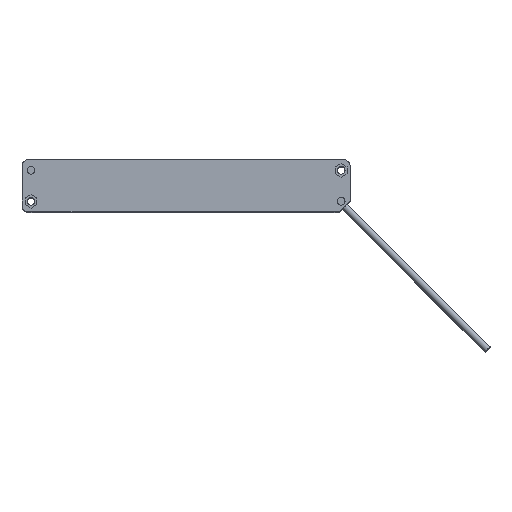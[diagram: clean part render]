
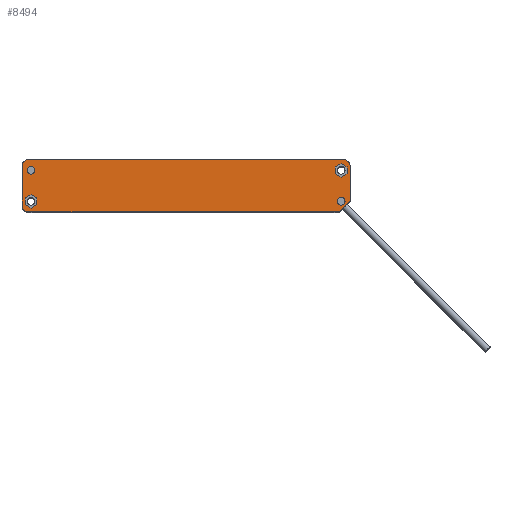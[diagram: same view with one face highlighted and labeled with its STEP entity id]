
A CAD part, top view. The second image highlights one B-rep face of the part: STEP entity #8494.
In plain terms, the highlighted planar face has unit normal (0, 0, 1).
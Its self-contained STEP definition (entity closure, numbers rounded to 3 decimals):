
#99=FACE_BOUND('',#1401,.T.);
#100=FACE_BOUND('',#1402,.T.);
#101=FACE_BOUND('',#1403,.T.);
#102=FACE_BOUND('',#1404,.T.);
#480=CIRCLE('',#9217,4.);
#481=CIRCLE('',#9218,4.);
#482=CIRCLE('',#9219,4.);
#483=CIRCLE('',#9220,0.5);
#484=CIRCLE('',#9221,0.5);
#485=CIRCLE('',#9222,2.25);
#486=CIRCLE('',#9223,2.25);
#902=FACE_OUTER_BOUND('',#1400,.T.);
#1400=EDGE_LOOP('',(#7075,#7076,#7077,#7078,#7079,#7080,#7081,#7082,#7083,
#7084));
#1401=EDGE_LOOP('',(#7085,#7086,#7087,#7088,#7089,#7090));
#1402=EDGE_LOOP('',(#7091,#7092,#7093,#7094,#7095,#7096));
#1403=EDGE_LOOP('',(#7097));
#1404=EDGE_LOOP('',(#7098));
#2228=LINE('',#13957,#3084);
#2229=LINE('',#13961,#3085);
#2230=LINE('',#13965,#3086);
#2231=LINE('',#13969,#3087);
#2232=LINE('',#13973,#3088);
#2233=LINE('',#13977,#3089);
#2234=LINE('',#13979,#3090);
#2235=LINE('',#13981,#3091);
#2236=LINE('',#13983,#3092);
#2237=LINE('',#13985,#3093);
#2238=LINE('',#13986,#3094);
#2239=LINE('',#13989,#3095);
#2240=LINE('',#13991,#3096);
#2241=LINE('',#13993,#3097);
#2242=LINE('',#13995,#3098);
#2243=LINE('',#13997,#3099);
#2244=LINE('',#13998,#3100);
#3084=VECTOR('',#11371,19.879);
#3085=VECTOR('',#11374,183.);
#3086=VECTOR('',#11377,22.5);
#3087=VECTOR('',#11380,180.379);
#3088=VECTOR('',#11383,8.657);
#3089=VECTOR('',#11386,3.969);
#3090=VECTOR('',#11387,3.969);
#3091=VECTOR('',#11388,3.969);
#3092=VECTOR('',#11389,3.969);
#3093=VECTOR('',#11390,3.969);
#3094=VECTOR('',#11391,3.969);
#3095=VECTOR('',#11392,3.969);
#3096=VECTOR('',#11393,3.969);
#3097=VECTOR('',#11394,3.969);
#3098=VECTOR('',#11395,3.969);
#3099=VECTOR('',#11396,3.969);
#3100=VECTOR('',#11397,3.969);
#3841=VERTEX_POINT('',#13955);
#3842=VERTEX_POINT('',#13956);
#3843=VERTEX_POINT('',#13958);
#3844=VERTEX_POINT('',#13960);
#3845=VERTEX_POINT('',#13962);
#3846=VERTEX_POINT('',#13964);
#3847=VERTEX_POINT('',#13966);
#3848=VERTEX_POINT('',#13968);
#3849=VERTEX_POINT('',#13970);
#3850=VERTEX_POINT('',#13972);
#3851=VERTEX_POINT('',#13975);
#3852=VERTEX_POINT('',#13976);
#3853=VERTEX_POINT('',#13978);
#3854=VERTEX_POINT('',#13980);
#3855=VERTEX_POINT('',#13982);
#3856=VERTEX_POINT('',#13984);
#3857=VERTEX_POINT('',#13987);
#3858=VERTEX_POINT('',#13988);
#3859=VERTEX_POINT('',#13990);
#3860=VERTEX_POINT('',#13992);
#3861=VERTEX_POINT('',#13994);
#3862=VERTEX_POINT('',#13996);
#3863=VERTEX_POINT('',#13999);
#3864=VERTEX_POINT('',#14001);
#4939=EDGE_CURVE('',#3841,#3842,#2228,.T.);
#4940=EDGE_CURVE('',#3843,#3842,#480,.T.);
#4941=EDGE_CURVE('',#3843,#3844,#2229,.F.);
#4942=EDGE_CURVE('',#3845,#3844,#481,.T.);
#4943=EDGE_CURVE('',#3845,#3846,#2230,.F.);
#4944=EDGE_CURVE('',#3847,#3846,#482,.T.);
#4945=EDGE_CURVE('',#3847,#3848,#2231,.T.);
#4946=EDGE_CURVE('',#3849,#3848,#483,.T.);
#4947=EDGE_CURVE('',#3850,#3849,#2232,.F.);
#4948=EDGE_CURVE('',#3841,#3850,#484,.T.);
#4949=EDGE_CURVE('',#3851,#3852,#2233,.T.);
#4950=EDGE_CURVE('',#3852,#3853,#2234,.T.);
#4951=EDGE_CURVE('',#3853,#3854,#2235,.T.);
#4952=EDGE_CURVE('',#3854,#3855,#2236,.T.);
#4953=EDGE_CURVE('',#3855,#3856,#2237,.T.);
#4954=EDGE_CURVE('',#3856,#3851,#2238,.T.);
#4955=EDGE_CURVE('',#3857,#3858,#2239,.T.);
#4956=EDGE_CURVE('',#3858,#3859,#2240,.T.);
#4957=EDGE_CURVE('',#3859,#3860,#2241,.T.);
#4958=EDGE_CURVE('',#3860,#3861,#2242,.T.);
#4959=EDGE_CURVE('',#3861,#3862,#2243,.T.);
#4960=EDGE_CURVE('',#3862,#3857,#2244,.T.);
#4961=EDGE_CURVE('',#3863,#3863,#485,.T.);
#4962=EDGE_CURVE('',#3864,#3864,#486,.F.);
#7075=ORIENTED_EDGE('',*,*,#4939,.T.);
#7076=ORIENTED_EDGE('',*,*,#4940,.F.);
#7077=ORIENTED_EDGE('',*,*,#4941,.T.);
#7078=ORIENTED_EDGE('',*,*,#4942,.F.);
#7079=ORIENTED_EDGE('',*,*,#4943,.T.);
#7080=ORIENTED_EDGE('',*,*,#4944,.F.);
#7081=ORIENTED_EDGE('',*,*,#4945,.T.);
#7082=ORIENTED_EDGE('',*,*,#4946,.F.);
#7083=ORIENTED_EDGE('',*,*,#4947,.F.);
#7084=ORIENTED_EDGE('',*,*,#4948,.F.);
#7085=ORIENTED_EDGE('',*,*,#4949,.T.);
#7086=ORIENTED_EDGE('',*,*,#4950,.T.);
#7087=ORIENTED_EDGE('',*,*,#4951,.T.);
#7088=ORIENTED_EDGE('',*,*,#4952,.T.);
#7089=ORIENTED_EDGE('',*,*,#4953,.T.);
#7090=ORIENTED_EDGE('',*,*,#4954,.T.);
#7091=ORIENTED_EDGE('',*,*,#4955,.T.);
#7092=ORIENTED_EDGE('',*,*,#4956,.T.);
#7093=ORIENTED_EDGE('',*,*,#4957,.T.);
#7094=ORIENTED_EDGE('',*,*,#4958,.T.);
#7095=ORIENTED_EDGE('',*,*,#4959,.T.);
#7096=ORIENTED_EDGE('',*,*,#4960,.T.);
#7097=ORIENTED_EDGE('',*,*,#4961,.T.);
#7098=ORIENTED_EDGE('',*,*,#4962,.F.);
#7588=PLANE('',#9216);
#8494=ADVANCED_FACE('',(#902,#99,#100,#101,#102),#7588,.F.);
#9216=AXIS2_PLACEMENT_3D('',#13954,#11369,#11370);
#9217=AXIS2_PLACEMENT_3D('',#13959,#11372,#11373);
#9218=AXIS2_PLACEMENT_3D('',#13963,#11375,#11376);
#9219=AXIS2_PLACEMENT_3D('',#13967,#11378,#11379);
#9220=AXIS2_PLACEMENT_3D('',#13971,#11381,#11382);
#9221=AXIS2_PLACEMENT_3D('',#13974,#11384,#11385);
#9222=AXIS2_PLACEMENT_3D('',#14000,#11398,#11399);
#9223=AXIS2_PLACEMENT_3D('',#14002,#11400,#11401);
#11369=DIRECTION('center_axis',(0.,0.,-1.));
#11370=DIRECTION('ref_axis',(-1.,0.,0.));
#11371=DIRECTION('',(0.,1.,0.));
#11372=DIRECTION('center_axis',(0.,0.,-1.));
#11373=DIRECTION('ref_axis',(-1.,0.,0.));
#11374=DIRECTION('',(1.,0.,0.));
#11375=DIRECTION('center_axis',(0.,0.,-1.));
#11376=DIRECTION('ref_axis',(-1.,0.,0.));
#11377=DIRECTION('',(0.,1.,0.));
#11378=DIRECTION('center_axis',(0.,0.,-1.));
#11379=DIRECTION('ref_axis',(-1.,0.,0.));
#11380=DIRECTION('',(1.,0.,0.));
#11381=DIRECTION('center_axis',(0.,0.,-1.));
#11382=DIRECTION('ref_axis',(-1.,0.,0.));
#11383=DIRECTION('',(0.707,0.707,0.));
#11384=DIRECTION('center_axis',(0.,0.,-1.));
#11385=DIRECTION('ref_axis',(-1.,0.,0.));
#11386=DIRECTION('',(-0.866,-0.5,0.));
#11387=DIRECTION('',(-0.866,0.5,0.));
#11388=DIRECTION('',(0.,1.,0.));
#11389=DIRECTION('',(0.866,0.5,0.));
#11390=DIRECTION('',(0.866,-0.5,0.));
#11391=DIRECTION('',(0.,-1.,0.));
#11392=DIRECTION('',(0.866,0.5,0.));
#11393=DIRECTION('',(0.866,-0.5,0.));
#11394=DIRECTION('',(0.,-1.,0.));
#11395=DIRECTION('',(-0.866,-0.5,0.));
#11396=DIRECTION('',(-0.866,0.5,0.));
#11397=DIRECTION('',(0.,1.,0.));
#11398=DIRECTION('center_axis',(0.,0.,-1.));
#11399=DIRECTION('ref_axis',(-1.,0.,0.));
#11400=DIRECTION('center_axis',(0.,0.,-1.));
#11401=DIRECTION('ref_axis',(-1.,0.,0.));
#13954=CARTESIAN_POINT('Origin',(-5.,16.,226.));
#13955=CARTESIAN_POINT('',(0.,6.621,226.));
#13956=CARTESIAN_POINT('',(0.,26.5,226.));
#13957=CARTESIAN_POINT('',(0.,6.621,226.));
#13958=CARTESIAN_POINT('',(-4.,30.5,226.));
#13959=CARTESIAN_POINT('Origin',(-4.,26.5,226.));
#13960=CARTESIAN_POINT('',(-187.,30.5,226.));
#13961=CARTESIAN_POINT('',(-187.,30.5,226.));
#13962=CARTESIAN_POINT('',(-191.,26.5,226.));
#13963=CARTESIAN_POINT('Origin',(-187.,26.5,226.));
#13964=CARTESIAN_POINT('',(-191.,4.,226.));
#13965=CARTESIAN_POINT('',(-191.,4.,226.));
#13966=CARTESIAN_POINT('',(-187.,0.,226.));
#13967=CARTESIAN_POINT('Origin',(-187.,4.,226.));
#13968=CARTESIAN_POINT('',(-6.621,0.,226.));
#13969=CARTESIAN_POINT('',(-187.,0.,226.));
#13970=CARTESIAN_POINT('',(-6.268,0.146,226.));
#13971=CARTESIAN_POINT('Origin',(-6.621,0.5,226.));
#13972=CARTESIAN_POINT('',(-0.146,6.268,226.));
#13973=CARTESIAN_POINT('',(-6.268,0.146,226.));
#13974=CARTESIAN_POINT('Origin',(-0.5,6.621,226.));
#13975=CARTESIAN_POINT('',(-182.312,4.265,226.));
#13976=CARTESIAN_POINT('',(-185.75,2.281,226.));
#13977=CARTESIAN_POINT('',(-182.312,4.265,226.));
#13978=CARTESIAN_POINT('',(-189.188,4.265,226.));
#13979=CARTESIAN_POINT('',(-185.75,2.281,226.));
#13980=CARTESIAN_POINT('',(-189.188,8.235,226.));
#13981=CARTESIAN_POINT('',(-189.188,4.265,226.));
#13982=CARTESIAN_POINT('',(-185.75,10.219,226.));
#13983=CARTESIAN_POINT('',(-189.188,8.235,226.));
#13984=CARTESIAN_POINT('',(-182.312,8.235,226.));
#13985=CARTESIAN_POINT('',(-185.75,10.219,226.));
#13986=CARTESIAN_POINT('',(-182.312,8.235,226.));
#13987=CARTESIAN_POINT('',(-8.688,26.235,226.));
#13988=CARTESIAN_POINT('',(-5.25,28.219,226.));
#13989=CARTESIAN_POINT('',(-8.688,26.235,226.));
#13990=CARTESIAN_POINT('',(-1.812,26.235,226.));
#13991=CARTESIAN_POINT('',(-5.25,28.219,226.));
#13992=CARTESIAN_POINT('',(-1.812,22.265,226.));
#13993=CARTESIAN_POINT('',(-1.812,26.235,226.));
#13994=CARTESIAN_POINT('',(-5.25,20.281,226.));
#13995=CARTESIAN_POINT('',(-1.812,22.265,226.));
#13996=CARTESIAN_POINT('',(-8.688,22.265,226.));
#13997=CARTESIAN_POINT('',(-5.25,20.281,226.));
#13998=CARTESIAN_POINT('',(-8.688,22.265,226.));
#13999=CARTESIAN_POINT('',(-188.,24.25,226.));
#14000=CARTESIAN_POINT('Origin',(-185.75,24.25,226.));
#14001=CARTESIAN_POINT('',(-7.5,6.25,226.));
#14002=CARTESIAN_POINT('Origin',(-5.25,6.25,226.));
